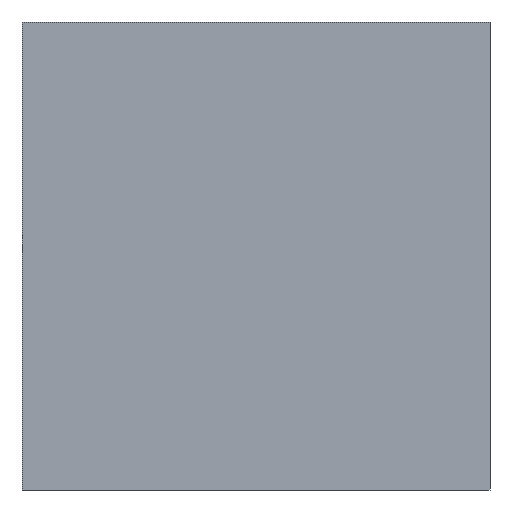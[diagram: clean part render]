
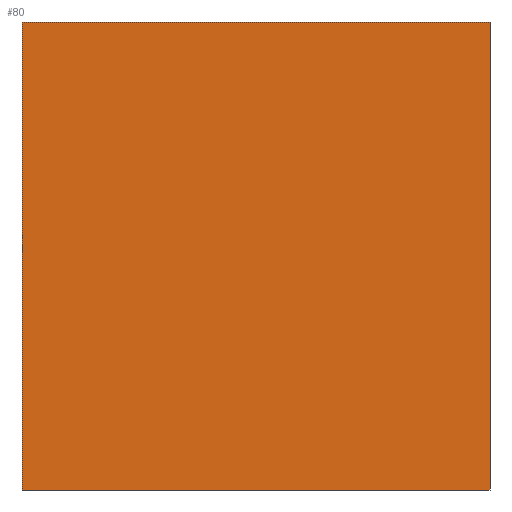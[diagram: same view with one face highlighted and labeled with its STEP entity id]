
A CAD part, front view. The second image highlights one B-rep face of the part: STEP entity #80.
In plain terms, the highlighted planar face has unit normal (0, -1, 0).
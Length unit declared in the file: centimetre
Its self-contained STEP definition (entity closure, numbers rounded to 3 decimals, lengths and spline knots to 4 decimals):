
#34 = FACE_OUTER_BOUND ( 'NONE', #328, .T. ) ;
#43 = VECTOR ( 'NONE', #281, 100. ) ;
#52 = VERTEX_POINT ( 'NONE', #618 ) ;
#80 = ADVANCED_FACE ( 'NONE', ( #34 ), #497, .F. ) ;
#95 = EDGE_CURVE ( 'NONE', #132, #129, #568, .T. ) ;
#99 = CARTESIAN_POINT ( 'NONE',  ( 0., 0., 1000. ) ) ;
#113 = ORIENTED_EDGE ( 'NONE', *, *, #166, .F. ) ;
#129 = VERTEX_POINT ( 'NONE', #641 ) ;
#132 = VERTEX_POINT ( 'NONE', #784 ) ;
#166 = EDGE_CURVE ( 'NONE', #129, #52, #706, .T. ) ;
#172 = CARTESIAN_POINT ( 'NONE',  ( 0., 0., 1000. ) ) ;
#185 = AXIS2_PLACEMENT_3D ( 'NONE', #99, #623, #547 ) ;
#243 = ORIENTED_EDGE ( 'NONE', *, *, #95, .F. ) ;
#244 = EDGE_CURVE ( 'NONE', #132, #782, #516, .T. ) ;
#281 = DIRECTION ( 'NONE',  ( 1., 0., 0. ) ) ;
#302 = DIRECTION ( 'NONE',  ( 0., 0., -1. ) ) ;
#328 = EDGE_LOOP ( 'NONE', ( #451, #113, #243, #821 ) ) ;
#333 = VECTOR ( 'NONE', #302, 100. ) ;
#345 = DIRECTION ( 'NONE',  ( 1., 0., 0. ) ) ;
#348 = EDGE_CURVE ( 'NONE', #782, #52, #936, .T. ) ;
#446 = CARTESIAN_POINT ( 'NONE',  ( 0., 0., 0. ) ) ;
#451 = ORIENTED_EDGE ( 'NONE', *, *, #348, .T. ) ;
#497 = PLANE ( 'NONE',  #185 ) ;
#516 = LINE ( 'NONE', #824, #333 ) ;
#545 = VECTOR ( 'NONE', #932, 100. ) ;
#547 = DIRECTION ( 'NONE',  ( 0., 0., 1. ) ) ;
#568 = LINE ( 'NONE', #172, #720 ) ;
#618 = CARTESIAN_POINT ( 'NONE',  ( 1000., 0., 0. ) ) ;
#623 = DIRECTION ( 'NONE',  ( 0., 1., 0. ) ) ;
#638 = CARTESIAN_POINT ( 'NONE',  ( 1000., 0., 1000. ) ) ;
#641 = CARTESIAN_POINT ( 'NONE',  ( 1000., 0., 1000. ) ) ;
#706 = LINE ( 'NONE', #638, #545 ) ;
#720 = VECTOR ( 'NONE', #345, 100. ) ;
#747 = CARTESIAN_POINT ( 'NONE',  ( 0., 0., 0. ) ) ;
#782 = VERTEX_POINT ( 'NONE', #446 ) ;
#784 = CARTESIAN_POINT ( 'NONE',  ( 0., 0., 1000. ) ) ;
#821 = ORIENTED_EDGE ( 'NONE', *, *, #244, .T. ) ;
#824 = CARTESIAN_POINT ( 'NONE',  ( 0., 0., 1000. ) ) ;
#932 = DIRECTION ( 'NONE',  ( 0., 0., -1. ) ) ;
#936 = LINE ( 'NONE', #747, #43 ) ;
